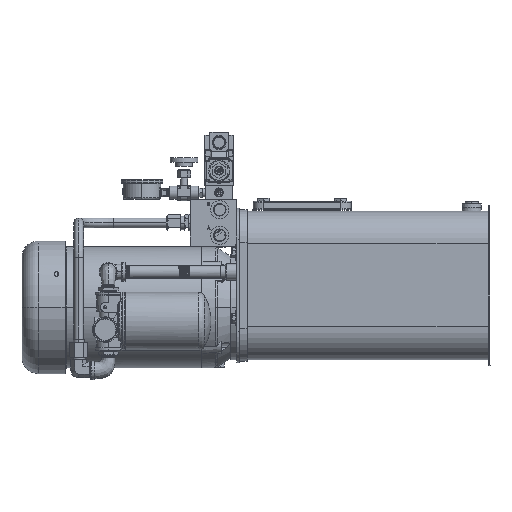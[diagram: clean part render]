
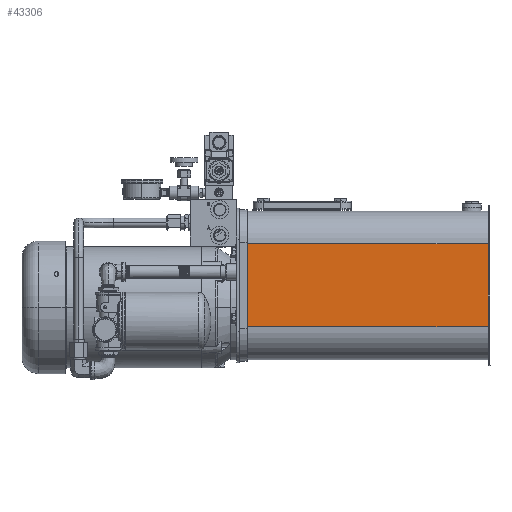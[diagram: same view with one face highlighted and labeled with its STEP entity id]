
A CAD part, top view. The second image highlights one B-rep face of the part: STEP entity #43306.
In plain terms, the highlighted planar face has unit normal (0, 0, 1).
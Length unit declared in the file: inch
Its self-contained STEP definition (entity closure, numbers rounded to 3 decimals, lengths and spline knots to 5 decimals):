
#2937 = DIRECTION ( 'NONE',  ( 0., -1., 0. ) ) ;
#14787 = CARTESIAN_POINT ( 'NONE',  ( -4.00815, 12.41322, 19.26779 ) ) ;
#20239 = DIRECTION ( 'NONE',  ( 1., 0., 0. ) ) ;
#24170 = FACE_OUTER_BOUND ( 'NONE', #123735, .T. ) ;
#24927 = VECTOR ( 'NONE', #28733, 39.37008 ) ;
#27401 = VERTEX_POINT ( 'NONE', #128255 ) ;
#27822 = LINE ( 'NONE', #14787, #143273 ) ;
#28733 = DIRECTION ( 'NONE',  ( 1., 0., 0. ) ) ;
#31737 = CARTESIAN_POINT ( 'NONE',  ( 11.99185, 7.60072, 19.26779 ) ) ;
#37397 = EDGE_CURVE ( 'NONE', #60104, #27401, #143241, .T. ) ;
#43306 = ADVANCED_FACE ( 'NONE', ( #24170 ), #91118, .F. ) ;
#47152 = CARTESIAN_POINT ( 'NONE',  ( -4.00815, 10.29362, 19.26779 ) ) ;
#49960 = ORIENTED_EDGE ( 'NONE', *, *, #71354, .F. ) ;
#50189 = DIRECTION ( 'NONE',  ( 0., -1., 0. ) ) ;
#60104 = VERTEX_POINT ( 'NONE', #180172 ) ;
#62066 = LINE ( 'NONE', #47152, #109375 ) ;
#67143 = VERTEX_POINT ( 'NONE', #142543 ) ;
#67635 = ORIENTED_EDGE ( 'NONE', *, *, #83781, .T. ) ;
#71354 = EDGE_CURVE ( 'NONE', #167350, #67143, #27822, .T. ) ;
#73601 = CARTESIAN_POINT ( 'NONE',  ( -4.00815, 4.90782, 19.26779 ) ) ;
#75164 = LINE ( 'NONE', #113206, #24927 ) ;
#83781 = EDGE_CURVE ( 'NONE', #167350, #27401, #75164, .T. ) ;
#83904 = ORIENTED_EDGE ( 'NONE', *, *, #129216, .F. ) ;
#91118 = PLANE ( 'NONE',  #116250 ) ;
#109375 = VECTOR ( 'NONE', #20239, 39.37008 ) ;
#113206 = CARTESIAN_POINT ( 'NONE',  ( -4.00815, 4.90782, 19.26779 ) ) ;
#115401 = ORIENTED_EDGE ( 'NONE', *, *, #37397, .F. ) ;
#116250 = AXIS2_PLACEMENT_3D ( 'NONE', #137485, #149612, #50189 ) ;
#123735 = EDGE_LOOP ( 'NONE', ( #115401, #83904, #49960, #67635 ) ) ;
#127156 = DIRECTION ( 'NONE',  ( 0., 1., 0. ) ) ;
#128255 = CARTESIAN_POINT ( 'NONE',  ( 11.99185, 4.90782, 19.26779 ) ) ;
#129216 = EDGE_CURVE ( 'NONE', #67143, #60104, #62066, .T. ) ;
#137485 = CARTESIAN_POINT ( 'NONE',  ( -4.00815, 12.41322, 19.26779 ) ) ;
#142543 = CARTESIAN_POINT ( 'NONE',  ( -4.00815, 10.29362, 19.26779 ) ) ;
#143241 = LINE ( 'NONE', #31737, #153420 ) ;
#143273 = VECTOR ( 'NONE', #127156, 39.37008 ) ;
#149612 = DIRECTION ( 'NONE',  ( 0., 0., -1. ) ) ;
#153420 = VECTOR ( 'NONE', #2937, 39.37008 ) ;
#167350 = VERTEX_POINT ( 'NONE', #73601 ) ;
#180172 = CARTESIAN_POINT ( 'NONE',  ( 11.99185, 10.29362, 19.26779 ) ) ;
